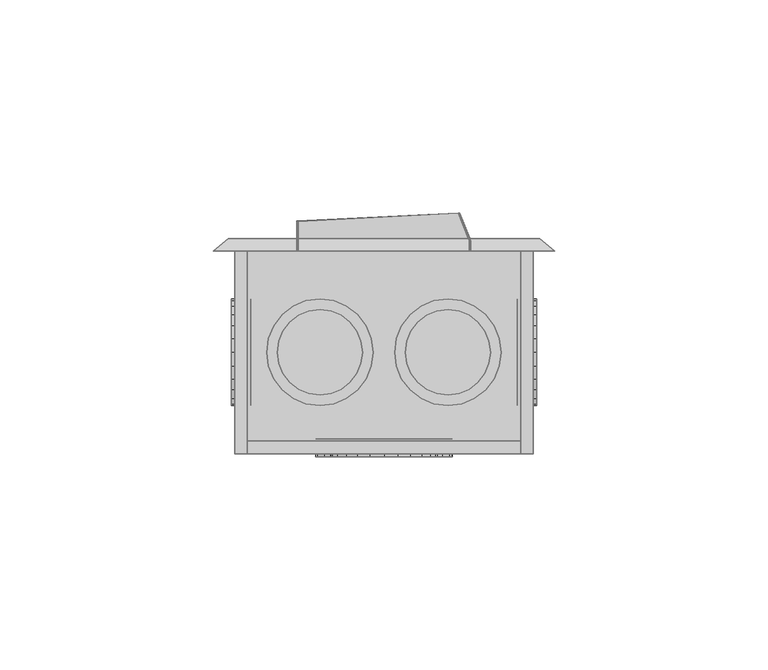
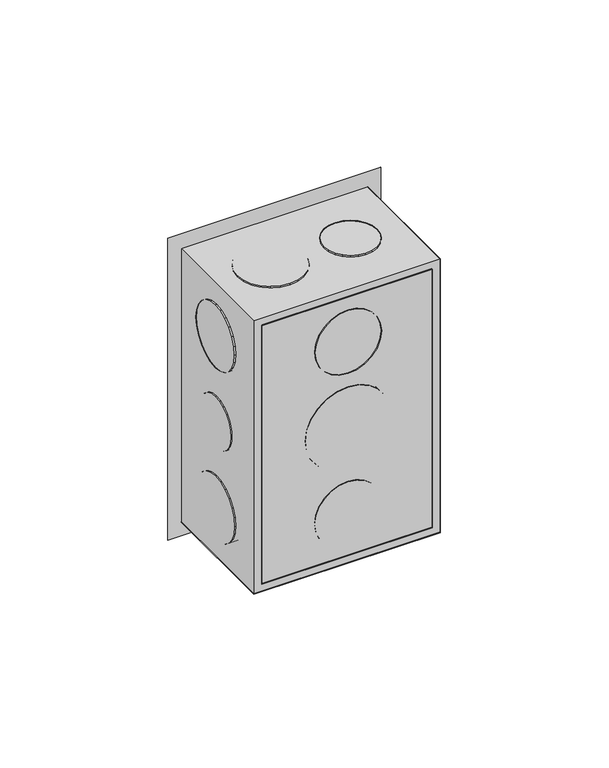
"""IFC4 building model written with IfcOpenShell, lengths in millimetres: proxy geometry,  210531 :  210531."""

from ifc_helpers import new_model, si_unit, origin, place, context, project, spatial, triangles, source, transform, mapped, element, save


def generic_models_e0741742(model_context):
    return source(origin(), model_context, "Body", "Tessellation", [
        triangles([(27864.0992065, 15395.8997864, 1254.3000378), (27867.0990234, 15395.8997864, 1148.7000154), (27864.0992065, 15395.8997864, 1145.6999805), (27867.0990234, 15395.8997864, 1251.2999302), (27934.099585, 15395.8997864, 1254.3000378), (27931.0997681, 15395.8997864, 1251.2999302), (27934.099585, 15395.8997864, 1145.6999805), (27931.0997681, 15395.8997864, 1148.7000154), (27867.0990234, 15348.4003601, 1251.2999302), (27867.0990234, 15348.4003601, 1148.7000154), (27934.099585, 15348.4003601, 1254.3000378), (27934.099585, 15348.4003601, 1145.6999805), (27931.0997681, 15348.4003601, 1251.2999302), (27864.0992065, 15348.4003601, 1145.6999805), (27931.0997681, 15348.4003601, 1148.7000154), (27864.0992065, 15348.4003601, 1254.3000378), (27867.0990234, 15351.400177, 1251.2999302), (27931.0997681, 15351.400177, 1148.7000154), (27867.0990234, 15351.400177, 1148.7000154), (27931.0997681, 15351.400177, 1251.2999302), (27891.099884, 15347.7004028, 1186.0999855), (27885.2002441, 15347.7004028, 1191.9999887), (27887.8000854, 15347.7004028, 1188.6999722), (27894.8996521, 15347.7004028, 1184.5000105), (27883.6003418, 15347.7004028, 1195.8999687), (27899.0993958, 15347.7004028, 1183.9999683), (27883.1003723, 15347.7004028, 1200.0000092), (27903.1991455, 15347.7004028, 1184.5000105), (27883.6003418, 15347.7004028, 1204.0999769), (27907.0989075, 15347.7004028, 1186.0999855), (27885.2002441, 15347.7004028, 1208.0000296), (27910.4010315, 15347.7004028, 1188.6999722), (27887.8000854, 15347.7004028, 1211.2999735), (27912.9008789, 15347.7004028, 1191.9999887), (27891.099884, 15347.7004028, 1213.9000328), (27914.5007813, 15347.7004028, 1195.8999687), (27894.8996521, 15347.7004028, 1215.5000078), (27915.1007446, 15347.7004028, 1200.0000092), (27899.0993958, 15347.7004028, 1215.9999773), (27914.5007813, 15347.7004028, 1204.0999769), (27903.1991455, 15347.7004028, 1215.5000078), (27912.9008789, 15347.7004028, 1208.0000296), (27907.0989075, 15347.7004028, 1213.9000328), (27910.4010315, 15347.7004028, 1211.2999735), (27894.8996521, 15351.9001465, 1215.5000078), (27899.0993958, 15351.9001465, 1215.9999773), (27891.099884, 15351.9001465, 1213.9000328), (27887.8000854, 15351.9001465, 1211.2999735), (27885.2002441, 15351.9001465, 1208.0000296), (27883.6003418, 15351.9001465, 1204.0999769), (27883.1003723, 15351.9001465, 1200.0000092), (27883.6003418, 15351.9001465, 1195.8999687), (27885.2002441, 15351.9001465, 1191.9999887), (27887.8000854, 15351.9001465, 1188.6999722), (27891.099884, 15351.9001465, 1186.0999855), (27894.8996521, 15351.9001465, 1184.5000105), (27899.0993958, 15351.9001465, 1183.9999683), (27903.1991455, 15351.9001465, 1184.5000105), (27907.0989075, 15351.9001465, 1186.0999855), (27910.4010315, 15351.9001465, 1188.6999722), (27912.9008789, 15351.9001465, 1191.9999887), (27914.5007813, 15351.9001465, 1195.8999687), (27915.1007446, 15351.9001465, 1200.0000092), (27914.5007813, 15351.9001465, 1204.0999769), (27912.9008789, 15351.9001465, 1208.0000296), (27910.4010315, 15351.9001465, 1211.2999735), (27907.0989075, 15351.9001465, 1213.9000328), (27903.1991455, 15351.9001465, 1215.5000078), (27888.200061, 15351.9001465, 1227.8000565), (27892.7997803, 15351.9001465, 1223.2000465), (27890.199939, 15351.9001465, 1225.2000698), (27887.0001343, 15351.9001465, 1230.8000187), (27895.7995972, 15351.9001465, 1221.8999805), (27886.6001587, 15351.9001465, 1233.9999687), (27899.0993958, 15351.9001465, 1221.500005), (27887.0001343, 15351.9001465, 1237.2000641), (27902.2992004, 15351.9001465, 1221.8999805), (27888.200061, 15351.9001465, 1240.3000202), (27905.2990173, 15351.9001465, 1223.2000465), (27890.199939, 15351.9001465, 1242.800013), (27907.8988586, 15351.9001465, 1225.2000698), (27909.901062, 15351.9001465, 1227.8000565), (27892.7997803, 15351.9001465, 1244.8000362), (27895.7995972, 15351.9001465, 1246.0999569), (27911.1009888, 15351.9001465, 1230.8000187), (27899.0993958, 15351.9001465, 1246.4999325), (27911.6009583, 15351.9001465, 1233.9999687), (27902.2992004, 15351.9001465, 1246.0999569), (27911.1009888, 15351.9001465, 1237.2000641), (27909.901062, 15351.9001465, 1240.3000202), (27905.2990173, 15351.9001465, 1244.8000362), (27907.8988586, 15351.9001465, 1242.800013), (27911.1009888, 15347.7004028, 1230.8000187), (27909.901062, 15347.7004028, 1227.8000565), (27907.8988586, 15347.7004028, 1225.2000698), (27905.2990173, 15347.7004028, 1223.2000465), (27902.2992004, 15347.7004028, 1221.8999805), (27899.0993958, 15347.7004028, 1221.500005), (27895.7995972, 15347.7004028, 1221.8999805), (27892.7997803, 15347.7004028, 1223.2000465), (27890.199939, 15347.7004028, 1225.2000698), (27888.200061, 15347.7004028, 1227.8000565), (27887.0001343, 15347.7004028, 1230.8000187), (27886.6001587, 15347.7004028, 1233.9999687), (27887.0001343, 15347.7004028, 1237.2000641), (27888.200061, 15347.7004028, 1240.3000202), (27890.199939, 15347.7004028, 1242.800013), (27892.7997803, 15347.7004028, 1244.8000362), (27895.7995972, 15347.7004028, 1246.0999569), (27899.0993958, 15347.7004028, 1246.4999325), (27902.2992004, 15347.7004028, 1246.0999569), (27905.2990173, 15347.7004028, 1244.8000362), (27907.8988586, 15347.7004028, 1242.800013), (27909.901062, 15347.7004028, 1240.3000202), (27911.1009888, 15347.7004028, 1237.2000641), (27911.6009583, 15347.7004028, 1233.9999687), (27892.7997803, 15347.7004028, 1155.1999821), (27888.200061, 15347.7004028, 1159.6999981), (27890.199939, 15347.7004028, 1157.2000053), (27895.7995972, 15347.7004028, 1153.8999887), (27887.0001343, 15347.7004028, 1162.8000269), (27899.0993958, 15347.7004028, 1153.5000132), (27886.6001587, 15347.7004028, 1165.9999769), (27902.2992004, 15347.7004028, 1153.8999887), (27887.0001343, 15347.7004028, 1169.1999996), (27905.2990173, 15347.7004028, 1155.1999821), (27888.200061, 15347.7004028, 1172.2000345), (27907.8988586, 15347.7004028, 1157.2000053), (27890.199939, 15347.7004028, 1174.8000212), (27909.901062, 15347.7004028, 1159.6999981), (27892.7997803, 15347.7004028, 1176.7999718), (27911.1009888, 15347.7004028, 1162.8000269), (27895.7995972, 15347.7004028, 1178.0999651), (27899.0993958, 15347.7004028, 1178.5000134), (27911.6009583, 15347.7004028, 1165.9999769), (27911.1009888, 15347.7004028, 1169.1999996), (27902.2992004, 15347.7004028, 1178.0999651), (27909.901062, 15347.7004028, 1172.2000345), (27905.2990173, 15347.7004028, 1176.7999718), (27907.8988586, 15347.7004028, 1174.8000212), (27895.7995972, 15351.9001465, 1178.0999651), (27899.0993958, 15351.9001465, 1178.5000134), (27892.7997803, 15351.9001465, 1176.7999718), (27890.199939, 15351.9001465, 1174.8000212), (27888.200061, 15351.9001465, 1172.2000345), (27887.0001343, 15351.9001465, 1169.1999996), (27886.6001587, 15351.9001465, 1165.9999769), (27887.0001343, 15351.9001465, 1162.8000269), (27888.200061, 15351.9001465, 1159.6999981), (27890.199939, 15351.9001465, 1157.2000053), (27892.7997803, 15351.9001465, 1155.1999821), (27895.7995972, 15351.9001465, 1153.8999887), (27899.0993958, 15351.9001465, 1153.5000132), (27902.2992004, 15351.9001465, 1153.8999887), (27905.2990173, 15351.9001465, 1155.1999821), (27907.8988586, 15351.9001465, 1157.2000053), (27909.901062, 15351.9001465, 1159.6999981), (27911.1009888, 15351.9001465, 1162.8000269), (27911.6009583, 15351.9001465, 1165.9999769), (27911.1009888, 15351.9001465, 1169.1999996), (27909.901062, 15351.9001465, 1172.2000345), (27907.8988586, 15351.9001465, 1174.8000212), (27905.2990173, 15351.9001465, 1176.7999718), (27902.2992004, 15351.9001465, 1178.0999651), (27863.2992554, 15363.4994385, 1195.0000237), (27863.2992554, 15367.2003754, 1191.3000315), (27863.2992554, 15365.1005035, 1192.9000065), (27863.2992554, 15362.4994995, 1197.4000225), (27863.2992554, 15369.6002289, 1190.3000198), (27863.2992554, 15362.1995178, 1200.0000092), (27863.2992554, 15372.2000702, 1189.9999655), (27863.2992554, 15362.4994995, 1202.5999958), (27863.2992554, 15374.7999115, 1190.3000198), (27863.2992554, 15363.4994385, 1204.9999947), (27863.2992554, 15377.199765, 1191.3000315), (27863.2992554, 15365.1005035, 1207.1000118), (27863.2992554, 15379.2996368, 1192.9000065), (27863.2992554, 15367.2003754, 1208.6999868), (27863.2992554, 15380.8995392, 1195.0000237), (27863.2992554, 15369.6002289, 1209.6999985), (27863.2992554, 15381.8994781, 1197.4000225), (27863.2992554, 15382.1994598, 1200.0000092), (27863.2992554, 15372.2000702, 1209.9999802), (27863.2992554, 15374.7999115, 1209.6999985), (27863.2992554, 15381.8994781, 1202.5999958), (27863.2992554, 15377.199765, 1208.6999868), (27863.2992554, 15380.8995392, 1204.9999947), (27863.2992554, 15379.2996368, 1207.1000118), (27867.8989746, 15369.6002289, 1209.6999985), (27867.8989746, 15372.2000702, 1209.9999802), (27867.8989746, 15374.7999115, 1209.6999985), (27867.8989746, 15377.199765, 1208.6999868), (27867.8989746, 15379.2996368, 1207.1000118), (27867.8989746, 15380.8995392, 1204.9999947), (27867.8989746, 15381.8994781, 1202.5999958), (27867.8989746, 15382.1994598, 1200.0000092), (27867.8989746, 15381.8994781, 1197.4000225), (27867.8989746, 15380.8995392, 1195.0000237), (27867.8989746, 15379.2996368, 1192.9000065), (27867.8989746, 15377.199765, 1191.3000315), (27867.8989746, 15374.7999115, 1190.3000198), (27867.8989746, 15372.2000702, 1189.9999655), (27867.8989746, 15369.6002289, 1190.3000198), (27867.8989746, 15367.2003754, 1191.3000315), (27867.8989746, 15365.1005035, 1192.9000065), (27867.8989746, 15363.4994385, 1195.0000237), (27867.8989746, 15362.4994995, 1197.4000225), (27867.8989746, 15362.1995178, 1200.0000092), (27867.8989746, 15362.4994995, 1202.5999958), (27867.8989746, 15363.4994385, 1204.9999947), (27867.8989746, 15365.1005035, 1207.1000118), (27867.8989746, 15367.2003754, 1208.6999868), (27867.8989746, 15365.9004547, 1223.2000465), (27867.8989746, 15361.3995667, 1227.8000565), (27867.8989746, 15363.3994446, 1225.2000698), (27867.8989746, 15369.0002655, 1221.8999805), (27867.8989746, 15360.099646, 1230.8000187), (27867.8989746, 15359.6996704, 1233.9999687), (27867.8989746, 15372.2000702, 1221.500005), (27867.8989746, 15375.3998749, 1221.8999805), (27867.8989746, 15360.099646, 1237.2000641), (27867.8989746, 15361.3995667, 1240.3000202), (27867.8989746, 15378.3996918, 1223.2000465), (27867.8989746, 15380.9995331, 1225.2000698), (27867.8989746, 15363.3994446, 1242.800013), (27867.8989746, 15383.0005737, 1227.8000565), (27867.8989746, 15365.9004547, 1244.8000362), (27867.8989746, 15384.3004944, 1230.8000187), (27867.8989746, 15369.0002655, 1246.0999569), (27867.8989746, 15384.70047, 1233.9999687), (27867.8989746, 15372.2000702, 1246.4999325), (27867.8989746, 15384.3004944, 1237.2000641), (27867.8989746, 15375.3998749, 1246.0999569), (27867.8989746, 15383.0005737, 1240.3000202), (27867.8989746, 15378.3996918, 1244.8000362), (27867.8989746, 15380.9995331, 1242.800013), (27863.2992554, 15372.2000702, 1221.500005), (27863.2992554, 15369.0002655, 1221.8999805), (27863.2992554, 15375.3998749, 1221.8999805), (27863.2992554, 15378.3996918, 1223.2000465), (27863.2992554, 15380.9995331, 1225.2000698), (27863.2992554, 15383.0005737, 1227.8000565), (27863.2992554, 15384.3004944, 1230.8000187), (27863.2992554, 15384.70047, 1233.9999687), (27863.2992554, 15384.3004944, 1237.2000641), (27863.2992554, 15383.0005737, 1240.3000202), (27863.2992554, 15380.9995331, 1242.800013), (27863.2992554, 15378.3996918, 1244.8000362), (27863.2992554, 15375.3998749, 1246.0999569), (27863.2992554, 15372.2000702, 1246.4999325), (27863.2992554, 15369.0002655, 1246.0999569), (27863.2992554, 15365.9004547, 1244.8000362), (27863.2992554, 15363.3994446, 1242.800013), (27863.2992554, 15361.3995667, 1240.3000202), (27863.2992554, 15360.099646, 1237.2000641), (27863.2992554, 15359.6996704, 1233.9999687), (27863.2992554, 15360.099646, 1230.8000187), (27863.2992554, 15361.3995667, 1227.8000565), (27863.2992554, 15363.3994446, 1225.2000698), (27863.2992554, 15365.9004547, 1223.2000465), (27863.2992554, 15361.3995667, 1159.6999981), (27863.2992554, 15365.9004547, 1155.1999821), (27863.2992554, 15363.3994446, 1157.2000053), (27863.2992554, 15360.099646, 1162.8000269), (27863.2992554, 15369.0002655, 1153.8999887), (27863.2992554, 15359.6996704, 1165.9999769), (27863.2992554, 15372.2000702, 1153.5000132), (27863.2992554, 15360.099646, 1169.1999996), (27863.2992554, 15375.3998749, 1153.8999887), (27863.2992554, 15361.3995667, 1172.2000345), (27863.2992554, 15378.3996918, 1155.1999821), (27863.2992554, 15363.3994446, 1174.8000212), (27863.2992554, 15380.9995331, 1157.2000053), (27863.2992554, 15365.9004547, 1176.7999718), (27863.2992554, 15383.0005737, 1159.6999981), (27863.2992554, 15369.0002655, 1178.0999651), (27863.2992554, 15384.3004944, 1162.8000269), (27863.2992554, 15372.2000702, 1178.5000134), (27863.2992554, 15384.70047, 1165.9999769), (27863.2992554, 15375.3998749, 1178.0999651), (27863.2992554, 15384.3004944, 1169.1999996), (27863.2992554, 15378.3996918, 1176.7999718), (27863.2992554, 15383.0005737, 1172.2000345), (27863.2992554, 15380.9995331, 1174.8000212), (27867.8989746, 15369.0002655, 1178.0999651), (27867.8989746, 15372.2000702, 1178.5000134), (27867.8989746, 15375.3998749, 1178.0999651), (27867.8989746, 15378.3996918, 1176.7999718), (27867.8989746, 15380.9995331, 1174.8000212), (27867.8989746, 15383.0005737, 1172.2000345), (27867.8989746, 15384.3004944, 1169.1999996), (27867.8989746, 15384.70047, 1165.9999769), (27867.8989746, 15384.3004944, 1162.8000269), (27867.8989746, 15383.0005737, 1159.6999981), (27867.8989746, 15380.9995331, 1157.2000053), (27867.8989746, 15378.3996918, 1155.1999821), (27867.8989746, 15375.3998749, 1153.8999887), (27867.8989746, 15372.2000702, 1153.5000132), (27867.8989746, 15369.0002655, 1153.8999887), (27867.8989746, 15365.9004547, 1155.1999821), (27867.8989746, 15363.3994446, 1157.2000053), (27867.8989746, 15361.3995667, 1159.6999981), (27867.8989746, 15360.099646, 1162.8000269), (27867.8989746, 15359.6996704, 1165.9999769), (27867.8989746, 15360.099646, 1169.1999996), (27867.8989746, 15361.3995667, 1172.2000345), (27867.8989746, 15363.3994446, 1174.8000212), (27867.8989746, 15365.9004547, 1176.7999718), (27934.8995361, 15367.2003754, 1191.3000315), (27934.8995361, 15363.4994385, 1195.0000237), (27934.8995361, 15365.1005035, 1192.9000065), (27934.8995361, 15362.4994995, 1197.4000225), (27934.8995361, 15369.6002289, 1190.3000198), (27934.8995361, 15362.1995178, 1200.0000092), (27934.8995361, 15372.2000702, 1189.9999655), (27934.8995361, 15374.7999115, 1190.3000198), (27934.8995361, 15362.4994995, 1202.5999958), (27934.8995361, 15363.4994385, 1204.9999947), (27934.8995361, 15377.199765, 1191.3000315), (27934.8995361, 15365.1005035, 1207.1000118), (27934.8995361, 15379.2996368, 1192.9000065), (27934.8995361, 15380.8995392, 1195.0000237), (27934.8995361, 15367.2003754, 1208.6999868), (27934.8995361, 15381.8994781, 1197.4000225), (27934.8995361, 15369.6002289, 1209.6999985), (27934.8995361, 15382.1994598, 1200.0000092), (27934.8995361, 15372.2000702, 1209.9999802), (27934.8995361, 15381.8994781, 1202.5999958), (27934.8995361, 15374.7999115, 1209.6999985), (27934.8995361, 15377.199765, 1208.6999868), (27934.8995361, 15380.8995392, 1204.9999947), (27934.8995361, 15379.2996368, 1207.1000118), (27930.2998169, 15369.6002289, 1190.3000198), (27930.2998169, 15367.2003754, 1191.3000315), (27930.2998169, 15372.2000702, 1189.9999655), (27930.2998169, 15374.7999115, 1190.3000198), (27930.2998169, 15377.199765, 1191.3000315), (27930.2998169, 15379.2996368, 1192.9000065), (27930.2998169, 15380.8995392, 1195.0000237), (27930.2998169, 15381.8994781, 1197.4000225), (27930.2998169, 15382.1994598, 1200.0000092), (27930.2998169, 15381.8994781, 1202.5999958), (27930.2998169, 15380.8995392, 1204.9999947), (27930.2998169, 15379.2996368, 1207.1000118), (27930.2998169, 15377.199765, 1208.6999868), (27930.2998169, 15374.7999115, 1209.6999985), (27930.2998169, 15372.2000702, 1209.9999802), (27930.2998169, 15369.6002289, 1209.6999985), (27930.2998169, 15367.2003754, 1208.6999868), (27930.2998169, 15365.1005035, 1207.1000118), (27930.2998169, 15363.4994385, 1204.9999947), (27930.2998169, 15362.4994995, 1202.5999958), (27930.2998169, 15362.1995178, 1200.0000092), (27930.2998169, 15362.4994995, 1197.4000225), (27930.2998169, 15363.4994385, 1195.0000237), (27930.2998169, 15365.1005035, 1192.9000065), (27930.2998169, 15361.3995667, 1159.6999981), (27930.2998169, 15365.9004547, 1155.1999821), (27930.2998169, 15363.3994446, 1157.2000053), (27930.2998169, 15360.099646, 1162.8000269), (27930.2998169, 15369.0002655, 1153.8999887), (27930.2998169, 15359.6996704, 1165.9999769), (27930.2998169, 15372.2000702, 1153.5000132), (27930.2998169, 15360.099646, 1169.1999996), (27930.2998169, 15375.3998749, 1153.8999887), (27930.2998169, 15361.3995667, 1172.2000345), (27930.2998169, 15378.3996918, 1155.1999821), (27930.2998169, 15363.3994446, 1174.8000212), (27930.2998169, 15380.9995331, 1157.2000053), (27930.2998169, 15365.9004547, 1176.7999718), (27930.2998169, 15383.0005737, 1159.6999981), (27930.2998169, 15369.0002655, 1178.0999651), (27930.2998169, 15384.3004944, 1162.8000269), (27930.2998169, 15372.2000702, 1178.5000134), (27930.2998169, 15384.70047, 1165.9999769), (27930.2998169, 15375.3998749, 1178.0999651), (27930.2998169, 15384.3004944, 1169.1999996), (27930.2998169, 15378.3996918, 1176.7999718), (27930.2998169, 15383.0005737, 1172.2000345), (27930.2998169, 15380.9995331, 1174.8000212), (27934.8995361, 15369.0002655, 1178.0999651), (27934.8995361, 15372.2000702, 1178.5000134), (27934.8995361, 15375.3998749, 1178.0999651), (27934.8995361, 15378.3996918, 1176.7999718), (27934.8995361, 15380.9995331, 1174.8000212), (27934.8995361, 15383.0005737, 1172.2000345), (27934.8995361, 15384.3004944, 1169.1999996), (27934.8995361, 15384.70047, 1165.9999769), (27934.8995361, 15384.3004944, 1162.8000269), (27934.8995361, 15383.0005737, 1159.6999981), (27934.8995361, 15380.9995331, 1157.2000053), (27934.8995361, 15378.3996918, 1155.1999821), (27934.8995361, 15375.3998749, 1153.8999887), (27934.8995361, 15372.2000702, 1153.5000132), (27934.8995361, 15369.0002655, 1153.8999887), (27934.8995361, 15365.9004547, 1155.1999821), (27934.8995361, 15363.3994446, 1157.2000053), (27934.8995361, 15361.3995667, 1159.6999981), (27934.8995361, 15360.099646, 1162.8000269), (27934.8995361, 15359.6996704, 1165.9999769), (27934.8995361, 15360.099646, 1169.1999996), (27934.8995361, 15361.3995667, 1172.2000345), (27934.8995361, 15363.3994446, 1174.8000212), (27934.8995361, 15365.9004547, 1176.7999718), (27934.8995361, 15365.9004547, 1223.2000465), (27934.8995361, 15361.3995667, 1227.8000565), (27934.8995361, 15363.3994446, 1225.2000698), (27934.8995361, 15369.0002655, 1221.8999805), (27934.8995361, 15360.099646, 1230.8000187), (27934.8995361, 15359.6996704, 1233.9999687), (27934.8995361, 15372.2000702, 1221.500005), (27934.8995361, 15375.3998749, 1221.8999805), (27934.8995361, 15360.099646, 1237.2000641), (27934.8995361, 15361.3995667, 1240.3000202), (27934.8995361, 15378.3996918, 1223.2000465), (27934.8995361, 15380.9995331, 1225.2000698), (27934.8995361, 15363.3994446, 1242.800013), (27934.8995361, 15383.0005737, 1227.8000565), (27934.8995361, 15365.9004547, 1244.8000362), (27934.8995361, 15384.3004944, 1230.8000187), (27934.8995361, 15369.0002655, 1246.0999569), (27934.8995361, 15384.70047, 1233.9999687), (27934.8995361, 15372.2000702, 1246.4999325), (27934.8995361, 15384.3004944, 1237.2000641), (27934.8995361, 15375.3998749, 1246.0999569), (27934.8995361, 15383.0005737, 1240.3000202), (27934.8995361, 15378.3996918, 1244.8000362), (27934.8995361, 15380.9995331, 1242.800013), (27930.2998169, 15372.2000702, 1221.500005), (27930.2998169, 15369.0002655, 1221.8999805), (27930.2998169, 15375.3998749, 1221.8999805), (27930.2998169, 15378.3996918, 1223.2000465), (27930.2998169, 15380.9995331, 1225.2000698), (27930.2998169, 15383.0005737, 1227.8000565), (27930.2998169, 15384.3004944, 1230.8000187), (27930.2998169, 15384.70047, 1233.9999687), (27930.2998169, 15384.3004944, 1237.2000641), (27930.2998169, 15383.0005737, 1240.3000202), (27930.2998169, 15380.9995331, 1242.800013), (27930.2998169, 15378.3996918, 1244.8000362), (27930.2998169, 15375.3998749, 1246.0999569), (27930.2998169, 15372.2000702, 1246.4999325), (27930.2998169, 15369.0002655, 1246.0999569), (27930.2998169, 15365.9004547, 1244.8000362), (27930.2998169, 15363.3994446, 1242.800013), (27930.2998169, 15361.3995667, 1240.3000202), (27930.2998169, 15360.099646, 1237.2000641), (27930.2998169, 15359.6996704, 1233.9999687), (27930.2998169, 15360.099646, 1230.8000187), (27930.2998169, 15361.3995667, 1227.8000565), (27930.2998169, 15363.3994446, 1225.2000698), (27930.2998169, 15365.9004547, 1223.2000465), (27877.8006958, 15361.3995667, 1255.1999828), (27873.2009766, 15365.9004547, 1255.1999828), (27875.2008545, 15363.3994446, 1255.1999828), (27872.0010498, 15369.0002655, 1255.1999828), (27880.8005127, 15360.099646, 1255.1999828), (27884.1003113, 15359.6996704, 1255.1999828), (27871.6010742, 15372.2000702, 1255.1999828), (27872.0010498, 15375.3998749, 1255.1999828), (27887.300116, 15360.099646, 1255.1999828), (27890.2999329, 15361.3995667, 1255.1999828), (27873.2009766, 15378.3996918, 1255.1999828), (27875.2008545, 15380.9995331, 1255.1999828), (27892.8997742, 15363.3994446, 1255.1999828), (27894.8996521, 15365.9004547, 1255.1999828), (27877.8006958, 15383.0005737, 1255.1999828), (27880.8005127, 15384.3004944, 1255.1999828), (27896.0995789, 15369.0002655, 1255.1999828), (27884.1003113, 15384.70047, 1255.1999828), (27896.5995483, 15372.2000702, 1255.1999828), (27887.300116, 15384.3004944, 1255.1999828), (27896.0995789, 15375.3998749, 1255.1999828), (27894.8996521, 15378.3996918, 1255.1999828), (27890.2999329, 15383.0005737, 1255.1999828), (27892.8997742, 15380.9995331, 1255.1999828), (27884.1003113, 15384.70047, 1250.9999485), (27880.8005127, 15384.3004944, 1250.9999485), (27877.8006958, 15383.0005737, 1250.9999485), (27875.2008545, 15380.9995331, 1250.9999485), (27873.2009766, 15378.3996918, 1250.9999485), (27872.0010498, 15375.3998749, 1250.9999485), (27871.6010742, 15372.2000702, 1250.9999485), (27872.0010498, 15369.0002655, 1250.9999485), (27873.2009766, 15365.9004547, 1250.9999485), (27875.2008545, 15363.3994446, 1250.9999485), (27877.8006958, 15361.3995667, 1250.9999485), (27880.8005127, 15360.099646, 1250.9999485), (27884.1003113, 15359.6996704, 1250.9999485), (27887.300116, 15360.099646, 1250.9999485), (27890.2999329, 15361.3995667, 1250.9999485), (27892.8997742, 15363.3994446, 1250.9999485), (27894.8996521, 15365.9004547, 1250.9999485), (27896.0995789, 15369.0002655, 1250.9999485), (27896.5995483, 15372.2000702, 1250.9999485), (27896.0995789, 15375.3998749, 1250.9999485), (27894.8996521, 15378.3996918, 1250.9999485), (27892.8997742, 15380.9995331, 1250.9999485), (27890.2999329, 15383.0005737, 1250.9999485), (27887.300116, 15384.3004944, 1250.9999485), (27905.3990112, 15367.2003754, 1250.9999485), (27909.1011108, 15363.4994385, 1250.9999485), (27906.9989136, 15365.1005035, 1250.9999485), (27911.5009644, 15362.4994995, 1250.9999485), (27904.3990723, 15369.6002289, 1250.9999485), (27914.1008057, 15362.1995178, 1250.9999485), (27904.0990906, 15372.2000702, 1250.9999485), (27904.3990723, 15374.7999115, 1250.9999485), (27916.700647, 15362.4994995, 1250.9999485), (27919.1005005, 15363.4994385, 1250.9999485), (27905.3990112, 15377.199765, 1250.9999485), (27921.1003784, 15365.1005035, 1250.9999485), (27906.9989136, 15379.2996368, 1250.9999485), (27909.1011108, 15380.8995392, 1250.9999485), (27922.7002808, 15367.2003754, 1250.9999485), (27923.7002197, 15369.6002289, 1250.9999485), (27911.5009644, 15381.8994781, 1250.9999485), (27914.1008057, 15382.1994598, 1250.9999485), (27924.1001953, 15372.2000702, 1250.9999485), (27916.700647, 15381.8994781, 1250.9999485), (27923.7002197, 15374.7999115, 1250.9999485), (27919.1005005, 15380.8995392, 1250.9999485), (27922.7002808, 15377.199765, 1250.9999485), (27921.1003784, 15379.2996368, 1250.9999485), (27916.700647, 15362.4994995, 1255.1999828), (27919.1005005, 15363.4994385, 1255.1999828), (27914.1008057, 15362.1995178, 1255.1999828), (27911.5009644, 15362.4994995, 1255.1999828), (27909.1011108, 15363.4994385, 1255.1999828), (27906.9989136, 15365.1005035, 1255.1999828), (27905.3990112, 15367.2003754, 1255.1999828), (27904.3990723, 15369.6002289, 1255.1999828), (27904.0990906, 15372.2000702, 1255.1999828), (27904.3990723, 15374.7999115, 1255.1999828), (27905.3990112, 15377.199765, 1255.1999828), (27906.9989136, 15379.2996368, 1255.1999828), (27909.1011108, 15380.8995392, 1255.1999828), (27911.5009644, 15381.8994781, 1255.1999828), (27914.1008057, 15382.1994598, 1255.1999828), (27916.700647, 15381.8994781, 1255.1999828), (27919.1005005, 15380.8995392, 1255.1999828), (27921.1003784, 15379.2996368, 1255.1999828), (27922.7002808, 15377.199765, 1255.1999828), (27923.7002197, 15374.7999115, 1255.1999828), (27924.1001953, 15372.2000702, 1255.1999828), (27923.7002197, 15369.6002289, 1255.1999828), (27922.7002808, 15367.2003754, 1255.1999828), (27921.1003784, 15365.1005035, 1255.1999828), (27875.4008423, 15367.2003754, 1144.8000355), (27879.1006165, 15363.4994385, 1144.8000355), (27877.0007446, 15365.1005035, 1144.8000355), (27881.50047, 15362.4994995, 1144.8000355), (27874.4009033, 15369.6002289, 1144.8000355), (27884.1003113, 15362.1995178, 1144.8000355), (27874.1009216, 15372.2000702, 1144.8000355), (27874.4009033, 15374.7999115, 1144.8000355), (27886.7001526, 15362.4994995, 1144.8000355), (27889.1000061, 15363.4994385, 1144.8000355), (27875.4008423, 15377.199765, 1144.8000355), (27891.099884, 15365.1005035, 1144.8000355), (27877.0007446, 15379.2996368, 1144.8000355), (27879.1006165, 15380.8995392, 1144.8000355), (27892.6997864, 15367.2003754, 1144.8000355), (27893.6997253, 15369.6002289, 1144.8000355), (27881.50047, 15381.8994781, 1144.8000355), (27884.1003113, 15382.1994598, 1144.8000355), (27894.0997009, 15372.2000702, 1144.8000355), (27886.7001526, 15381.8994781, 1144.8000355), (27893.6997253, 15374.7999115, 1144.8000355), (27889.1000061, 15380.8995392, 1144.8000355), (27892.6997864, 15377.199765, 1144.8000355), (27891.099884, 15379.2996368, 1144.8000355), (27881.50047, 15362.4994995, 1149.099991), (27884.1003113, 15362.1995178, 1149.099991), (27879.1006165, 15363.4994385, 1149.099991), (27877.0007446, 15365.1005035, 1149.099991), (27875.4008423, 15367.2003754, 1149.099991), (27874.4009033, 15369.6002289, 1149.099991), (27874.1009216, 15372.2000702, 1149.099991), (27874.4009033, 15374.7999115, 1149.099991), (27875.4008423, 15377.199765, 1149.099991), (27877.0007446, 15379.2996368, 1149.099991), (27879.1006165, 15380.8995392, 1149.099991), (27881.50047, 15381.8994781, 1149.099991), (27884.1003113, 15382.1994598, 1149.099991), (27886.7001526, 15381.8994781, 1149.099991), (27889.1000061, 15380.8995392, 1149.099991), (27891.099884, 15379.2996368, 1149.099991), (27892.6997864, 15377.199765, 1149.099991), (27893.6997253, 15374.7999115, 1149.099991), (27894.0997009, 15372.2000702, 1149.099991), (27893.6997253, 15369.6002289, 1149.099991), (27892.6997864, 15367.2003754, 1149.099991), (27891.099884, 15365.1005035, 1149.099991), (27889.1000061, 15363.4994385, 1149.099991), (27886.7001526, 15362.4994995, 1149.099991), (27903.1991455, 15365.9004547, 1144.8000355), (27907.7988647, 15361.3995667, 1144.8000355), (27905.1990234, 15363.3994446, 1144.8000355), (27901.9992187, 15369.0002655, 1144.8000355), (27910.8010071, 15360.099646, 1144.8000355), (27914.1008057, 15359.6996704, 1144.8000355), (27901.5992432, 15372.2000702, 1144.8000355), (27901.9992187, 15375.3998749, 1144.8000355), (27917.3006104, 15360.099646, 1144.8000355), (27920.3004272, 15361.3995667, 1144.8000355), (27903.1991455, 15378.3996918, 1144.8000355), (27905.1990234, 15380.9995331, 1144.8000355), (27922.9002686, 15363.3994446, 1144.8000355), (27924.9001465, 15365.9004547, 1144.8000355), (27907.7988647, 15383.0005737, 1144.8000355), (27910.8010071, 15384.3004944, 1144.8000355), (27926.1000732, 15369.0002655, 1144.8000355), (27914.1008057, 15384.70047, 1144.8000355), (27926.6000427, 15372.2000702, 1144.8000355), (27917.3006104, 15384.3004944, 1144.8000355), (27926.1000732, 15375.3998749, 1144.8000355), (27924.9001465, 15378.3996918, 1144.8000355), (27920.3004272, 15383.0005737, 1144.8000355), (27922.9002686, 15380.9995331, 1144.8000355), (27917.3006104, 15360.099646, 1149.099991), (27920.3004272, 15361.3995667, 1149.099991), (27914.1008057, 15359.6996704, 1149.099991), (27910.8010071, 15360.099646, 1149.099991), (27907.7988647, 15361.3995667, 1149.099991), (27905.1990234, 15363.3994446, 1149.099991), (27903.1991455, 15365.9004547, 1149.099991), (27901.9992187, 15369.0002655, 1149.099991), (27901.5992432, 15372.2000702, 1149.099991), (27901.9992187, 15375.3998749, 1149.099991), (27903.1991455, 15378.3996918, 1149.099991), (27905.1990234, 15380.9995331, 1149.099991), (27907.7988647, 15383.0005737, 1149.099991), (27910.8010071, 15384.3004944, 1149.099991), (27914.1008057, 15384.70047, 1149.099991), (27917.3006104, 15384.3004944, 1149.099991), (27920.3004272, 15383.0005737, 1149.099991), (27922.9002686, 15380.9995331, 1149.099991), (27924.9001465, 15378.3996918, 1149.099991), (27926.1000732, 15375.3998749, 1149.099991), (27926.6000427, 15372.2000702, 1149.099991), (27926.1000732, 15369.0002655, 1149.099991), (27924.9001465, 15365.9004547, 1149.099991), (27922.9002686, 15363.3994446, 1149.099991), (27939.0992798, 15395.8997864, 1139.9999651), (27878.9006287, 15395.8997864, 1164.5999897), (27859.0995117, 15395.8997864, 1139.9999651), (27919.3004883, 15395.8997864, 1164.5999897), (27939.0992798, 15395.8997864, 1259.9999805), (27919.3004883, 15395.8997864, 1188.0000149), (27919.3004883, 15395.8997864, 1211.3999674), (27919.3004883, 15395.8997864, 1234.8000652), (27859.0995117, 15395.8997864, 1259.9999805), (27878.9006287, 15395.8997864, 1188.0000149), (27878.9006287, 15395.8997864, 1211.3999674), (27878.9006287, 15395.8997864, 1234.8000652), (27878.9006287, 15398.8996033, 1188.0000149), (27919.3004883, 15398.8996033, 1188.0000149), (27878.9006287, 15398.8996033, 1234.8000652), (27919.3004883, 15398.8996033, 1234.8000652), (27919.3004883, 15398.8996033, 1164.5999897), (27919.3004883, 15398.8996033, 1211.3999674), (27878.9006287, 15398.8996033, 1164.5999897), (27878.9006287, 15398.8996033, 1211.3999674), (27862.5992981, 15398.8996033, 1143.4999695), (27862.5992981, 15398.8996033, 1256.5000488), (27935.5994934, 15398.8996033, 1143.4999695), (27935.5994934, 15398.8996033, 1256.5000488), (27879.0006226, 15402.9005219, 1211.2999735), (27919.4004822, 15395.8997864, 1211.2999735), (27879.0006226, 15395.8997864, 1211.2999735), (27916.8006409, 15404.8004059, 1211.2999735), (27919.4004822, 15398.3996338, 1211.2999735), (27879.0006226, 15395.8997864, 1234.7000713), (27919.4004822, 15395.8997864, 1234.7000713), (27879.0006226, 15402.9005219, 1234.7000713), (27916.8006409, 15404.8004059, 1234.7000713), (27919.4004822, 15398.3996338, 1234.7000713), (27878.7006409, 15402.9005219, 1164.6999836), (27919.1005005, 15395.8997864, 1164.6999836), (27878.7006409, 15395.8997864, 1164.6999836), (27916.5006592, 15404.8004059, 1164.6999836), (27919.1005005, 15398.3996338, 1164.6999836), (27878.7006409, 15395.8997864, 1188.1000088), (27919.1005005, 15395.8997864, 1188.1000088), (27878.7006409, 15402.9005219, 1188.1000088), (27916.5006592, 15404.8004059, 1188.1000088), (27919.1005005, 15398.3996338, 1188.1000088)], [[1, 2, 3], [2, 1, 4], [5, 4, 1], [4, 5, 6], [3, 2, 7], [7, 2, 8], [7, 8, 6], [7, 6, 5], [2, 9, 10], [9, 2, 4], [7, 11, 12], [11, 7, 5], [4, 13, 9], [13, 4, 6], [3, 12, 14], [12, 3, 7], [13, 8, 15], [8, 13, 6], [16, 3, 14], [3, 16, 1], [15, 2, 10], [2, 15, 8], [11, 1, 16], [1, 11, 5], [12, 10, 14], [10, 12, 15], [11, 15, 12], [15, 11, 13], [14, 10, 16], [16, 10, 9], [16, 9, 13], [16, 13, 11], [17, 18, 19], [18, 17, 20], [18, 13, 15], [13, 18, 20], [19, 15, 10], [15, 19, 18], [9, 19, 10], [19, 9, 17], [13, 17, 9], [17, 13, 20], [15, 9, 10], [9, 15, 13], [21, 22, 23], [22, 21, 24], [25, 22, 24], [25, 24, 26], [27, 25, 26], [27, 26, 28], [29, 27, 28], [29, 28, 30], [31, 29, 30], [31, 30, 32], [31, 32, 33], [33, 32, 34], [33, 34, 35], [35, 34, 36], [35, 36, 37], [37, 36, 38], [37, 38, 39], [39, 38, 40], [39, 40, 41], [41, 40, 42], [41, 42, 43], [43, 42, 44], [39, 45, 37], [45, 39, 46], [37, 47, 35], [47, 37, 45], [35, 48, 33], [48, 35, 47], [33, 49, 31], [49, 33, 48], [31, 50, 29], [50, 31, 49], [29, 51, 27], [51, 29, 50], [27, 52, 25], [52, 27, 51], [25, 53, 22], [53, 25, 52], [22, 54, 23], [54, 22, 53], [54, 21, 23], [21, 54, 55], [55, 24, 21], [24, 55, 56], [56, 26, 24], [26, 56, 57], [57, 28, 26], [28, 57, 58], [58, 30, 28], [30, 58, 59], [59, 32, 30], [32, 59, 60], [60, 34, 32], [34, 60, 61], [61, 36, 34], [36, 61, 62], [62, 38, 36], [38, 62, 63], [63, 40, 38], [40, 63, 64], [64, 42, 40], [42, 64, 65], [65, 44, 42], [44, 65, 66], [44, 67, 43], [67, 44, 66], [43, 68, 41], [68, 43, 67], [41, 46, 39], [46, 41, 68], [53, 55, 54], [55, 53, 52], [56, 55, 52], [56, 52, 51], [57, 56, 51], [57, 51, 50], [58, 57, 50], [58, 50, 49], [59, 58, 49], [59, 49, 48], [59, 48, 60], [60, 48, 47], [60, 47, 61], [61, 47, 45], [61, 45, 62], [62, 45, 46], [62, 46, 63], [63, 46, 68], [63, 68, 64], [64, 68, 67], [64, 67, 65], [65, 67, 66], [69, 70, 71], [70, 69, 72], [73, 70, 72], [73, 72, 74], [75, 73, 74], [75, 74, 76], [77, 75, 76], [77, 76, 78], [79, 77, 78], [79, 78, 80], [81, 79, 80], [81, 80, 82], [82, 80, 83], [82, 83, 84], [82, 84, 85], [85, 84, 86], [85, 86, 87], [87, 86, 88], [87, 88, 89], [89, 88, 90], [90, 88, 91], [90, 91, 92], [82, 93, 94], [93, 82, 85], [81, 94, 95], [94, 81, 82], [79, 95, 96], [95, 79, 81], [77, 96, 97], [96, 77, 79], [75, 97, 98], [97, 75, 77], [73, 98, 99], [98, 73, 75], [70, 99, 100], [99, 70, 73], [71, 100, 101], [100, 71, 70], [102, 71, 101], [71, 102, 69], [103, 69, 102], [69, 103, 72], [104, 72, 103], [72, 104, 74], [105, 74, 104], [74, 105, 76], [106, 76, 105], [76, 106, 78], [107, 78, 106], [78, 107, 80], [108, 80, 107], [80, 108, 83], [109, 83, 108], [83, 109, 84], [110, 84, 109], [84, 110, 86], [111, 86, 110], [86, 111, 88], [112, 88, 111], [88, 112, 91], [113, 91, 112], [91, 113, 92], [90, 113, 114], [113, 90, 92], [89, 114, 115], [114, 89, 90], [87, 115, 116], [115, 87, 89], [85, 116, 93], [116, 85, 87], [100, 102, 101], [102, 100, 99], [103, 102, 99], [103, 99, 98], [104, 103, 98], [104, 98, 97], [105, 104, 97], [106, 105, 97], [106, 97, 96], [106, 96, 95], [106, 95, 107], [107, 95, 94], [107, 94, 108], [108, 94, 93], [108, 93, 109], [109, 93, 116], [109, 116, 110], [110, 116, 115], [110, 115, 111], [111, 115, 114], [111, 114, 112], [112, 114, 113], [117, 118, 119], [118, 117, 120], [121, 118, 120], [121, 120, 122], [123, 121, 122], [123, 122, 124], [125, 123, 124], [125, 124, 126], [127, 125, 126], [127, 126, 128], [127, 128, 129], [129, 128, 130], [129, 130, 131], [131, 130, 132], [131, 132, 133], [133, 132, 134], [134, 132, 135], [134, 135, 136], [134, 136, 137], [137, 136, 138], [137, 138, 139], [139, 138, 140], [134, 141, 133], [141, 134, 142], [133, 143, 131], [143, 133, 141], [131, 144, 129], [144, 131, 143], [129, 145, 127], [145, 129, 144], [127, 146, 125], [146, 127, 145], [125, 147, 123], [147, 125, 146], [123, 148, 121], [148, 123, 147], [121, 149, 118], [149, 121, 148], [118, 150, 119], [150, 118, 149], [150, 117, 119], [117, 150, 151], [151, 120, 117], [120, 151, 152], [152, 122, 120], [122, 152, 153], [153, 124, 122], [124, 153, 154], [154, 126, 124], [126, 154, 155], [155, 128, 126], [128, 155, 156], [156, 130, 128], [130, 156, 157], [157, 132, 130], [132, 157, 158], [158, 135, 132], [135, 158, 159], [159, 136, 135], [136, 159, 160], [160, 138, 136], [138, 160, 161], [161, 140, 138], [140, 161, 162], [140, 163, 139], [163, 140, 162], [139, 164, 137], [164, 139, 163], [137, 142, 134], [142, 137, 164], [149, 151, 150], [151, 149, 148], [152, 151, 148], [153, 152, 148], [153, 148, 147], [153, 147, 146], [154, 153, 146], [154, 146, 145], [155, 154, 145], [155, 145, 144], [156, 155, 144], [156, 144, 157], [157, 144, 143], [157, 143, 141], [157, 141, 158], [158, 141, 142], [158, 142, 159], [159, 142, 164], [159, 164, 160], [160, 164, 163], [160, 163, 161], [161, 163, 162], [165, 166, 167], [166, 165, 168], [169, 166, 168], [169, 168, 170], [171, 169, 170], [171, 170, 172], [173, 171, 172], [173, 172, 174], [175, 173, 174], [175, 174, 176], [177, 175, 176], [177, 176, 178], [177, 178, 179], [179, 178, 180], [179, 180, 181], [181, 180, 182], [182, 180, 183], [182, 183, 184], [182, 184, 185], [185, 184, 186], [185, 186, 187], [187, 186, 188], [189, 183, 180], [183, 189, 190], [190, 184, 183], [184, 190, 191], [191, 186, 184], [186, 191, 192], [192, 188, 186], [188, 192, 193], [188, 194, 187], [194, 188, 193], [187, 195, 185], [195, 187, 194], [185, 196, 182], [196, 185, 195], [182, 197, 181], [197, 182, 196], [181, 198, 179], [198, 181, 197], [179, 199, 177], [199, 179, 198], [177, 200, 175], [200, 177, 199], [175, 201, 173], [201, 175, 200], [173, 202, 171], [202, 173, 201], [171, 203, 169], [203, 171, 202], [169, 204, 166], [204, 169, 203], [166, 205, 167], [205, 166, 204], [205, 165, 167], [165, 205, 206], [206, 168, 165], [168, 206, 207], [207, 170, 168], [170, 207, 208], [208, 172, 170], [172, 208, 209], [209, 174, 172], [174, 209, 210], [210, 176, 174], [176, 210, 211], [211, 178, 176], [178, 211, 212], [212, 180, 178], [180, 212, 189], [204, 206, 205], [207, 206, 204], [207, 204, 203], [208, 207, 203], [208, 203, 202], [208, 202, 201], [209, 208, 201], [210, 209, 201], [210, 201, 200], [211, 210, 200], [211, 200, 199], [211, 199, 198], [211, 198, 212], [212, 198, 197], [212, 197, 189], [189, 197, 196], [189, 196, 190], [190, 196, 195], [190, 195, 191], [191, 195, 192], [192, 195, 194], [192, 194, 193], [213, 214, 215], [214, 213, 216], [217, 214, 216], [218, 217, 216], [218, 216, 219], [218, 219, 220], [221, 218, 220], [222, 221, 220], [222, 220, 223], [222, 223, 224], [222, 224, 225], [225, 224, 226], [225, 226, 227], [227, 226, 228], [227, 228, 229], [229, 228, 230], [229, 230, 231], [231, 230, 232], [231, 232, 233], [233, 232, 234], [233, 234, 235], [235, 234, 236], [237, 216, 238], [216, 237, 219], [239, 219, 237], [219, 239, 220], [240, 220, 239], [220, 240, 223], [241, 223, 240], [223, 241, 224], [242, 224, 241], [224, 242, 226], [243, 226, 242], [226, 243, 228], [244, 228, 243], [228, 244, 230], [245, 230, 244], [230, 245, 232], [246, 232, 245], [232, 246, 234], [247, 234, 246], [234, 247, 236], [235, 247, 248], [247, 235, 236], [233, 248, 249], [248, 233, 235], [231, 249, 250], [249, 231, 233], [229, 250, 251], [250, 229, 231], [227, 251, 252], [251, 227, 229], [225, 252, 253], [252, 225, 227], [222, 253, 254], [253, 222, 225], [221, 254, 255], [254, 221, 222], [218, 255, 256], [255, 218, 221], [217, 256, 257], [256, 217, 218], [214, 257, 258], [257, 214, 217], [215, 258, 259], [258, 215, 214], [260, 215, 259], [215, 260, 213], [238, 213, 260], [213, 238, 216], [258, 260, 259], [260, 258, 257], [238, 260, 257], [238, 257, 256], [237, 238, 256], [237, 256, 255], [239, 237, 255], [239, 255, 254], [240, 239, 254], [240, 254, 253], [240, 253, 241], [241, 253, 252], [241, 252, 242], [242, 252, 251], [242, 251, 243], [243, 251, 244], [244, 251, 250], [244, 250, 249], [244, 249, 245], [245, 249, 246], [246, 249, 248], [246, 248, 247], [261, 262, 263], [262, 261, 264], [265, 262, 264], [265, 264, 266], [267, 265, 266], [267, 266, 268], [269, 267, 268], [269, 268, 270], [271, 269, 270], [271, 270, 272], [271, 272, 273], [273, 272, 274], [273, 274, 275], [275, 274, 276], [275, 276, 277], [277, 276, 278], [277, 278, 279], [279, 278, 280], [279, 280, 281], [281, 280, 282], [281, 282, 283], [283, 282, 284], [285, 278, 276], [278, 285, 286], [286, 280, 278], [280, 286, 287], [287, 282, 280], [282, 287, 288], [288, 284, 282], [284, 288, 289], [284, 290, 283], [290, 284, 289], [283, 291, 281], [291, 283, 290], [281, 292, 279], [292, 281, 291], [279, 293, 277], [293, 279, 292], [277, 294, 275], [294, 277, 293], [275, 295, 273], [295, 275, 294], [273, 296, 271], [296, 273, 295], [271, 297, 269], [297, 271, 296], [269, 298, 267], [298, 269, 297], [267, 299, 265], [299, 267, 298], [265, 300, 262], [300, 265, 299], [262, 301, 263], [301, 262, 300], [301, 261, 263], [261, 301, 302], [302, 264, 261], [264, 302, 303], [303, 266, 264], [266, 303, 304], [304, 268, 266], [268, 304, 305], [305, 270, 268], [270, 305, 306], [306, 272, 270], [272, 306, 307], [307, 274, 272], [274, 307, 308], [308, 276, 274], [276, 308, 285], [300, 302, 301], [302, 300, 299], [303, 302, 299], [303, 299, 298], [304, 303, 298], [304, 298, 297], [305, 304, 297], [305, 297, 296], [306, 305, 296], [306, 296, 295], [306, 295, 307], [307, 295, 294], [307, 294, 308], [308, 294, 293], [308, 293, 285], [285, 293, 286], [286, 293, 292], [286, 292, 291], [286, 291, 287], [287, 291, 288], [288, 291, 290], [288, 290, 289], [309, 310, 311], [312, 310, 309], [312, 309, 313], [314, 312, 313], [314, 313, 315], [314, 315, 316], [317, 314, 316], [318, 317, 316], [318, 316, 319], [320, 318, 319], [320, 319, 321], [320, 321, 322], [320, 322, 323], [323, 322, 324], [323, 324, 325], [325, 324, 326], [325, 326, 327], [327, 326, 328], [327, 328, 329], [329, 328, 330], [330, 328, 331], [330, 331, 332], [333, 309, 334], [309, 333, 313], [335, 313, 333], [313, 335, 315], [336, 315, 335], [315, 336, 316], [337, 316, 336], [316, 337, 319], [338, 319, 337], [319, 338, 321], [339, 321, 338], [321, 339, 322], [340, 322, 339], [322, 340, 324], [341, 324, 340], [324, 341, 326], [342, 326, 341], [326, 342, 328], [343, 328, 342], [328, 343, 331], [344, 331, 343], [331, 344, 332], [330, 344, 345], [344, 330, 332], [329, 345, 346], [345, 329, 330], [327, 346, 347], [346, 327, 329], [325, 347, 348], [347, 325, 327], [323, 348, 349], [348, 323, 325], [320, 349, 350], [349, 320, 323], [318, 350, 351], [350, 318, 320], [317, 351, 352], [351, 317, 318], [314, 352, 353], [352, 314, 317], [312, 353, 354], [353, 312, 314], [310, 354, 355], [354, 310, 312], [311, 355, 356], [355, 311, 310], [334, 311, 356], [311, 334, 309], [355, 334, 356], [334, 355, 354], [333, 334, 354], [333, 354, 353], [335, 333, 353], [335, 353, 352], [336, 335, 352], [336, 352, 351], [337, 336, 351], [337, 351, 350], [338, 337, 350], [338, 350, 349], [338, 349, 339], [339, 349, 348], [339, 348, 340], [340, 348, 341], [341, 348, 347], [341, 347, 346], [341, 346, 342], [342, 346, 345], [342, 345, 343], [343, 345, 344], [357, 358, 359], [358, 357, 360], [361, 358, 360], [361, 360, 362], [363, 361, 362], [363, 362, 364], [365, 363, 364], [365, 364, 366], [367, 365, 366], [367, 366, 368], [367, 368, 369], [369, 368, 370], [369, 370, 371], [371, 370, 372], [371, 372, 373], [373, 372, 374], [373, 374, 375], [375, 374, 376], [375, 376, 377], [377, 376, 378], [377, 378, 379], [379, 378, 380], [381, 374, 372], [374, 381, 382], [382, 376, 374], [376, 382, 383], [383, 378, 376], [378, 383, 384], [384, 380, 378], [380, 384, 385], [380, 386, 379], [386, 380, 385], [379, 387, 377], [387, 379, 386], [377, 388, 375], [388, 377, 387], [375, 389, 373], [389, 375, 388], [373, 390, 371], [390, 373, 389], [371, 391, 369], [391, 371, 390], [369, 392, 367], [392, 369, 391], [367, 393, 365], [393, 367, 392], [365, 394, 363], [394, 365, 393], [363, 395, 361], [395, 363, 394], [361, 396, 358], [396, 361, 395], [358, 397, 359], [397, 358, 396], [397, 357, 359], [357, 397, 398], [398, 360, 357], [360, 398, 399], [399, 362, 360], [362, 399, 400], [400, 364, 362], [364, 400, 401], [401, 366, 364], [366, 401, 402], [402, 368, 366], [368, 402, 403], [403, 370, 368], [370, 403, 404], [404, 372, 370], [372, 404, 381], [396, 398, 397], [398, 396, 395], [399, 398, 395], [399, 395, 394], [400, 399, 394], [400, 394, 393], [401, 400, 393], [401, 393, 392], [402, 401, 392], [402, 392, 391], [402, 391, 403], [403, 391, 390], [403, 390, 404], [404, 390, 389], [404, 389, 381], [381, 389, 382], [382, 389, 388], [382, 388, 387], [382, 387, 383], [383, 387, 384], [384, 387, 386], [384, 386, 385], [405, 406, 407], [406, 405, 408], [409, 406, 408], [410, 409, 408], [410, 408, 411], [410, 411, 412], [413, 410, 412], [414, 413, 412], [414, 412, 415], [414, 415, 416], [414, 416, 417], [417, 416, 418], [417, 418, 419], [419, 418, 420], [419, 420, 421], [421, 420, 422], [421, 422, 423], [423, 422, 424], [423, 424, 425], [425, 424, 426], [425, 426, 427], [427, 426, 428], [429, 408, 430], [408, 429, 411], [431, 411, 429], [411, 431, 412], [432, 412, 431], [412, 432, 415], [433, 415, 432], [415, 433, 416], [434, 416, 433], [416, 434, 418], [435, 418, 434], [418, 435, 420], [436, 420, 435], [420, 436, 422], [437, 422, 436], [422, 437, 424], [438, 424, 437], [424, 438, 426], [439, 426, 438], [426, 439, 428], [427, 439, 440], [439, 427, 428], [425, 440, 441], [440, 425, 427], [423, 441, 442], [441, 423, 425], [421, 442, 443], [442, 421, 423], [419, 443, 444], [443, 419, 421], [417, 444, 445], [444, 417, 419], [414, 445, 446], [445, 414, 417], [413, 446, 447], [446, 413, 414], [410, 447, 448], [447, 410, 413], [409, 448, 449], [448, 409, 410], [406, 449, 450], [449, 406, 409], [407, 450, 451], [450, 407, 406], [452, 407, 451], [407, 452, 405], [430, 405, 452], [405, 430, 408], [450, 452, 451], [452, 450, 449], [430, 452, 449], [430, 449, 448], [429, 430, 448], [429, 448, 447], [431, 429, 447], [431, 447, 446], [432, 431, 446], [432, 446, 445], [432, 445, 433], [433, 445, 444], [433, 444, 434], [434, 444, 443], [434, 443, 435], [435, 443, 436], [436, 443, 442], [436, 442, 441], [436, 441, 437], [437, 441, 438], [438, 441, 440], [438, 440, 439], [453, 454, 455], [456, 454, 453], [456, 453, 457], [456, 457, 458], [459, 456, 458], [460, 459, 458], [460, 458, 461], [460, 461, 462], [463, 460, 462], [464, 463, 462], [464, 462, 465], [464, 465, 466], [464, 466, 467], [467, 466, 468], [468, 466, 469], [468, 469, 470], [470, 469, 471], [470, 471, 472], [472, 471, 473], [472, 473, 474], [472, 474, 475], [475, 474, 476], [468, 477, 478], [477, 468, 470], [467, 478, 479], [478, 467, 468], [464, 479, 480], [479, 464, 467], [463, 480, 481], [480, 463, 464], [460, 481, 482], [481, 460, 463], [459, 482, 483], [482, 459, 460], [456, 483, 484], [483, 456, 459], [454, 484, 485], [484, 454, 456], [455, 485, 486], [485, 455, 454], [487, 455, 486], [455, 487, 453], [488, 453, 487], [453, 488, 457], [489, 457, 488], [457, 489, 458], [490, 458, 489], [458, 490, 461], [491, 461, 490], [461, 491, 462], [492, 462, 491], [462, 492, 465], [493, 465, 492], [465, 493, 466], [494, 466, 493], [466, 494, 469], [495, 469, 494], [469, 495, 471], [496, 471, 495], [471, 496, 473], [497, 473, 496], [473, 497, 474], [498, 474, 497], [474, 498, 476], [475, 498, 499], [498, 475, 476], [472, 499, 500], [499, 472, 475], [470, 500, 477], [500, 470, 472], [485, 487, 486], [487, 485, 484], [488, 487, 484], [489, 488, 484], [489, 484, 483], [489, 483, 482], [490, 489, 482], [491, 490, 482], [491, 482, 481], [491, 481, 480], [492, 491, 480], [492, 480, 493], [493, 480, 479], [493, 479, 478], [493, 478, 494], [494, 478, 477], [494, 477, 495], [495, 477, 500], [495, 500, 496], [496, 500, 497], [497, 500, 499], [497, 499, 498], [501, 502, 503], [504, 502, 501], [504, 501, 505], [506, 504, 505], [506, 505, 507], [506, 507, 508], [509, 506, 508], [510, 509, 508], [510, 508, 511], [512, 510, 511], [512, 511, 513], [512, 513, 514], [512, 514, 515], [515, 514, 516], [516, 514, 517], [516, 517, 518], [516, 518, 519], [519, 518, 520], [519, 520, 521], [521, 520, 522], [521, 522, 523], [523, 522, 524], [510, 525, 509], [525, 510, 526], [509, 527, 506], [527, 509, 525], [506, 528, 504], [528, 506, 527], [504, 529, 502], [529, 504, 528], [502, 530, 503], [530, 502, 529], [530, 501, 503], [501, 530, 531], [531, 505, 501], [505, 531, 532], [532, 507, 505], [507, 532, 533], [533, 508, 507], [508, 533, 534], [534, 511, 508], [511, 534, 535], [535, 513, 511], [513, 535, 536], [536, 514, 513], [514, 536, 537], [537, 517, 514], [517, 537, 538], [538, 518, 517], [518, 538, 539], [539, 520, 518], [520, 539, 540], [540, 522, 520], [522, 540, 541], [541, 524, 522], [524, 541, 542], [524, 543, 523], [543, 524, 542], [523, 544, 521], [544, 523, 543], [521, 545, 519], [545, 521, 544], [519, 546, 516], [546, 519, 545], [516, 547, 515], [547, 516, 546], [515, 548, 512], [548, 515, 547], [512, 526, 510], [526, 512, 548], [529, 531, 530], [531, 529, 528], [532, 531, 528], [532, 528, 527], [533, 532, 527], [534, 533, 527], [534, 527, 525], [534, 525, 526], [535, 534, 526], [535, 526, 548], [536, 535, 548], [536, 548, 537], [537, 548, 547], [537, 547, 546], [537, 546, 538], [538, 546, 539], [539, 546, 545], [539, 545, 540], [540, 545, 544], [540, 544, 541], [541, 544, 543], [541, 543, 542], [549, 550, 551], [552, 550, 549], [552, 549, 553], [554, 552, 553], [554, 553, 555], [554, 555, 556], [557, 554, 556], [558, 557, 556], [558, 556, 559], [560, 558, 559], [560, 559, 561], [560, 561, 562], [560, 562, 563], [563, 562, 564], [564, 562, 565], [564, 565, 566], [564, 566, 567], [567, 566, 568], [567, 568, 569], [569, 568, 570], [569, 570, 571], [571, 570, 572], [554, 573, 552], [573, 554, 574], [552, 575, 550], [575, 552, 573], [550, 576, 551], [576, 550, 575], [576, 549, 551], [549, 576, 577], [577, 553, 549], [553, 577, 578], [578, 555, 553], [555, 578, 579], [579, 556, 555], [556, 579, 580], [580, 559, 556], [559, 580, 581], [581, 561, 559], [561, 581, 582], [582, 562, 561], [562, 582, 583], [583, 565, 562], [565, 583, 584], [584, 566, 565], [566, 584, 585], [585, 568, 566], [568, 585, 586], [586, 570, 568], [570, 586, 587], [587, 572, 570], [572, 587, 588], [572, 589, 571], [589, 572, 588], [571, 590, 569], [590, 571, 589], [569, 591, 567], [591, 569, 590], [567, 592, 564], [592, 567, 591], [564, 593, 563], [593, 564, 592], [563, 594, 560], [594, 563, 593], [560, 595, 558], [595, 560, 594], [558, 596, 557], [596, 558, 595], [557, 574, 554], [574, 557, 596], [575, 577, 576], [577, 575, 573], [578, 577, 573], [578, 573, 574], [579, 578, 574], [580, 579, 574], [580, 574, 596], [580, 596, 595], [581, 580, 595], [581, 595, 594], [582, 581, 594], [582, 594, 583], [583, 594, 593], [583, 593, 592], [583, 592, 584], [584, 592, 585], [585, 592, 591], [585, 591, 586], [586, 591, 590], [586, 590, 587], [587, 590, 589], [587, 589, 588], [597, 598, 599], [598, 597, 600], [601, 598, 600], [602, 601, 600], [602, 600, 603], [602, 603, 604], [605, 602, 604], [606, 605, 604], [606, 604, 607], [606, 607, 608], [609, 606, 608], [609, 608, 610], [610, 608, 611], [610, 611, 612], [610, 612, 613], [613, 612, 614], [613, 614, 615], [615, 614, 616], [615, 616, 617], [617, 616, 618], [618, 616, 619], [618, 619, 620], [606, 621, 605], [621, 606, 622], [605, 623, 602], [623, 605, 621], [602, 624, 601], [624, 602, 623], [601, 625, 598], [625, 601, 624], [598, 626, 599], [626, 598, 625], [626, 597, 599], [597, 626, 627], [627, 600, 597], [600, 627, 628], [628, 603, 600], [603, 628, 629], [629, 604, 603], [604, 629, 630], [630, 607, 604], [607, 630, 631], [631, 608, 607], [608, 631, 632], [632, 611, 608], [611, 632, 633], [633, 612, 611], [612, 633, 634], [634, 614, 612], [614, 634, 635], [635, 616, 614], [616, 635, 636], [636, 619, 616], [619, 636, 637], [637, 620, 619], [620, 637, 638], [620, 639, 618], [639, 620, 638], [618, 640, 617], [640, 618, 639], [617, 641, 615], [641, 617, 640], [615, 642, 613], [642, 615, 641], [613, 643, 610], [643, 613, 642], [610, 644, 609], [644, 610, 643], [609, 622, 606], [622, 609, 644], [625, 627, 626], [628, 627, 625], [628, 625, 624], [628, 624, 623], [629, 628, 623], [630, 629, 623], [630, 623, 621], [630, 621, 622], [631, 630, 622], [632, 631, 622], [632, 622, 644], [632, 644, 643], [632, 643, 633], [633, 643, 634], [634, 643, 642], [634, 642, 635], [635, 642, 641], [635, 641, 636], [636, 641, 640], [636, 640, 639], [636, 639, 637], [637, 639, 638], [645, 646, 647], [646, 645, 648], [649, 648, 645], [648, 649, 650], [650, 649, 651], [651, 649, 652], [647, 646, 653], [653, 646, 654], [653, 654, 655], [653, 655, 656], [653, 656, 652], [653, 652, 649], [650, 655, 654], [655, 650, 651], [657, 650, 654], [650, 657, 658], [659, 652, 656], [652, 659, 660], [650, 661, 648], [661, 650, 658], [652, 662, 651], [662, 652, 660], [648, 663, 646], [663, 648, 661], [651, 664, 655], [664, 651, 662], [663, 654, 646], [654, 663, 657], [664, 656, 655], [656, 664, 659], [653, 665, 647], [665, 653, 666], [647, 665, 645], [645, 665, 667], [668, 645, 667], [645, 668, 649], [653, 668, 666], [649, 668, 653], [664, 658, 657], [658, 664, 662], [666, 663, 665], [663, 666, 657], [657, 666, 664], [664, 666, 659], [660, 659, 666], [668, 660, 666], [665, 663, 667], [667, 663, 661], [667, 661, 668], [668, 661, 658], [668, 658, 662], [668, 662, 660], [669, 670, 671], [670, 669, 672], [670, 672, 673], [670, 674, 671], [674, 670, 675], [674, 669, 671], [669, 674, 676], [676, 672, 669], [672, 676, 677], [672, 678, 673], [678, 672, 677], [673, 675, 670], [675, 673, 678], [675, 676, 674], [676, 675, 677], [677, 675, 678], [679, 680, 681], [680, 679, 682], [680, 682, 683], [680, 684, 681], [684, 680, 685], [684, 679, 681], [679, 684, 686], [686, 682, 679], [682, 686, 687], [682, 688, 683], [688, 682, 687], [683, 685, 680], [685, 683, 688], [685, 686, 684], [686, 685, 687], [687, 685, 688]], closed=False),
    ])


if __name__ == "__main__":
    model = new_model("IFC4")
    model_context = context("Model", 3, world=origin())
    ifc_project = project(units=[si_unit("LENGTHUNIT", "METRE", prefix="MILLI")], contexts=[model_context])
    site = spatial("IfcSite", under=ifc_project)
    building = spatial("IfcBuilding", under=site)
    placement = place(None, origin())
    generic_models_shape = generic_models_e0741742(model_context)
    element("IfcBuildingElementProxy", 1, Name=" 210531 :  210531", ObjectType=" 210531 :  210531", at=placement, inside=building, context=model_context, shape_type="MappedRepresentation", body=[
        mapped(generic_models_shape, transform((0.0, 0.0, 0.0), x_axis=(1.0, 0.0, 0.0), y_axis=(0.0, 1.0, 0.0), z_axis=(0.0, 0.0, 1.0))),
    ])
    save(model, "model.ifc")
